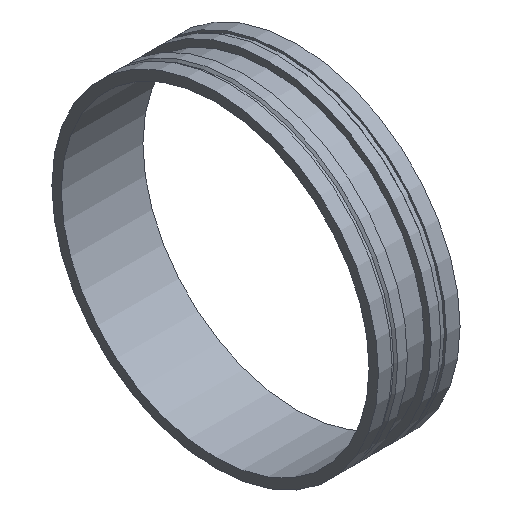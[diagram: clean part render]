
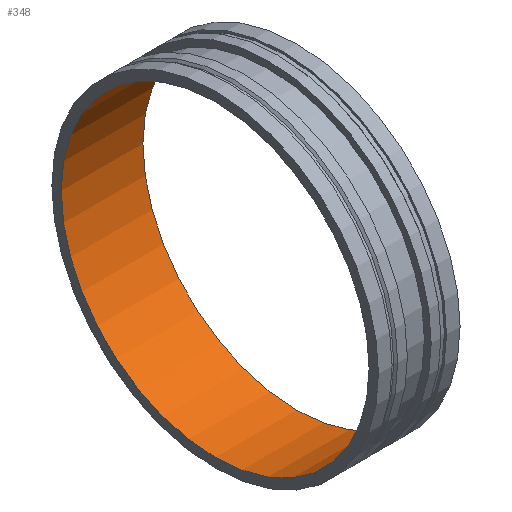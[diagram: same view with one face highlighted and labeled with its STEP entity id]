
A CAD part, isometric view. The second image highlights one B-rep face of the part: STEP entity #348.
In plain terms, the highlighted cylindrical face has radius 574.675 mm (diameter 1149.35 mm), a full revolution.
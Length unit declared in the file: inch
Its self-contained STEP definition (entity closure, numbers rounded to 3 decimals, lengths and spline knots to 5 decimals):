
#56=LINE('',#654,#66);
#66=VECTOR('',#537,22.625);
#74=CYLINDRICAL_SURFACE('',#416,22.625);
#96=FACE_OUTER_BOUND('',#118,.T.);
#118=EDGE_LOOP('',(#303,#304,#305,#306,#307,#308));
#121=CIRCLE('',#372,22.625);
#122=CIRCLE('',#373,22.625);
#149=CIRCLE('',#414,22.625);
#150=CIRCLE('',#415,22.625);
#153=VERTEX_POINT('',#570);
#154=VERTEX_POINT('',#571);
#181=VERTEX_POINT('',#649);
#182=VERTEX_POINT('',#650);
#185=EDGE_CURVE('',#153,#154,#121,.T.);
#186=EDGE_CURVE('',#154,#153,#122,.T.);
#222=EDGE_CURVE('',#181,#182,#149,.T.);
#223=EDGE_CURVE('',#182,#181,#150,.T.);
#224=EDGE_CURVE('',#182,#154,#56,.T.);
#303=ORIENTED_EDGE('',*,*,#222,.T.);
#304=ORIENTED_EDGE('',*,*,#224,.T.);
#305=ORIENTED_EDGE('',*,*,#185,.F.);
#306=ORIENTED_EDGE('',*,*,#186,.F.);
#307=ORIENTED_EDGE('',*,*,#224,.F.);
#308=ORIENTED_EDGE('',*,*,#223,.T.);
#348=ADVANCED_FACE('',(#96),#74,.F.);
#372=AXIS2_PLACEMENT_3D('',#572,#438,#439);
#373=AXIS2_PLACEMENT_3D('',#573,#440,#441);
#414=AXIS2_PLACEMENT_3D('',#651,#531,#532);
#415=AXIS2_PLACEMENT_3D('',#652,#533,#534);
#416=AXIS2_PLACEMENT_3D('',#653,#535,#536);
#438=DIRECTION('center_axis',(1.,0.,0.));
#439=DIRECTION('ref_axis',(0.,0.,-1.));
#440=DIRECTION('center_axis',(1.,0.,0.));
#441=DIRECTION('ref_axis',(0.,0.,-1.));
#531=DIRECTION('center_axis',(1.,0.,0.));
#532=DIRECTION('ref_axis',(0.,0.,-1.));
#533=DIRECTION('center_axis',(1.,0.,0.));
#534=DIRECTION('ref_axis',(0.,0.,-1.));
#535=DIRECTION('center_axis',(1.,0.,0.));
#536=DIRECTION('ref_axis',(0.,1.,0.));
#537=DIRECTION('',(-1.,0.,0.));
#570=CARTESIAN_POINT('',(0.,22.625,0.));
#571=CARTESIAN_POINT('',(0.,-22.625,0.));
#572=CARTESIAN_POINT('Origin',(0.,0.,
0.));
#573=CARTESIAN_POINT('Origin',(0.,0.,
0.));
#649=CARTESIAN_POINT('',(12.,22.625,0.));
#650=CARTESIAN_POINT('',(12.,-22.625,0.));
#651=CARTESIAN_POINT('Origin',(12.,0.,0.));
#652=CARTESIAN_POINT('Origin',(12.,0.,0.));
#653=CARTESIAN_POINT('Origin',(6.,0.,0.));
#654=CARTESIAN_POINT('',(6.,-22.625,0.));
